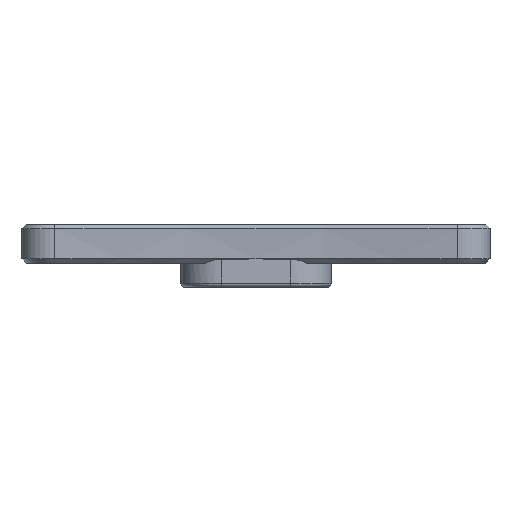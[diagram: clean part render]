
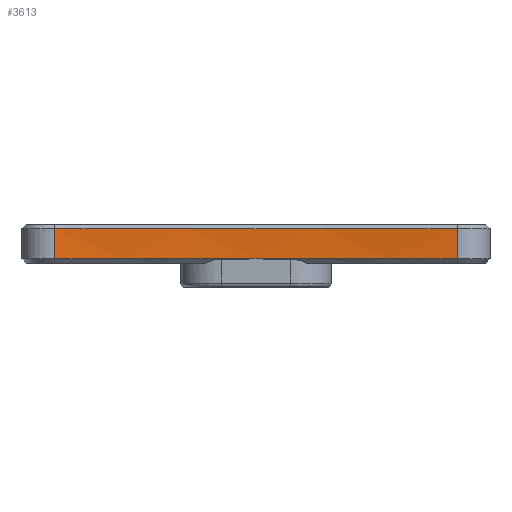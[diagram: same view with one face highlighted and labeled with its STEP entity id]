
A CAD part, left-side view. The second image highlights one B-rep face of the part: STEP entity #3613.
In plain terms, the highlighted cylindrical face has radius 197.333 mm (diameter 394.667 mm), a partial arc.
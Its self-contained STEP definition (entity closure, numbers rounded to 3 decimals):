
#283=FACE_OUTER_BOUND('',#515,.T.);
#515=EDGE_LOOP('',(#2650,#2651,#2652,#2653,#2654));
#758=LINE('',#5744,#1079);
#759=LINE('',#5745,#1080);
#1079=VECTOR('',#4572,10.);
#1080=VECTOR('',#4573,10.);
#1380=CIRCLE('',#3881,197.333);
#1381=CIRCLE('',#3883,197.333);
#1399=CIRCLE('',#3908,197.333);
#1591=VERTEX_POINT('',#5620);
#1594=VERTEX_POINT('',#5633);
#1597=VERTEX_POINT('',#5648);
#1614=VERTEX_POINT('',#5696);
#1616=VERTEX_POINT('',#5702);
#1956=EDGE_CURVE('',#1594,#1591,#1380,.T.);
#1959=EDGE_CURVE('',#1591,#1597,#1381,.T.);
#1986=EDGE_CURVE('',#1616,#1614,#1399,.T.);
#2007=EDGE_CURVE('',#1616,#1597,#758,.T.);
#2008=EDGE_CURVE('',#1614,#1594,#759,.T.);
#2650=ORIENTED_EDGE('',*,*,#1986,.F.);
#2651=ORIENTED_EDGE('',*,*,#2007,.T.);
#2652=ORIENTED_EDGE('',*,*,#1959,.F.);
#2653=ORIENTED_EDGE('',*,*,#1956,.F.);
#2654=ORIENTED_EDGE('',*,*,#2008,.F.);
#3511=CYLINDRICAL_SURFACE('',#3931,197.333);
#3613=ADVANCED_FACE('',(#283),#3511,.F.);
#3881=AXIS2_PLACEMENT_3D('',#5635,#4453,#4454);
#3883=AXIS2_PLACEMENT_3D('',#5649,#4457,#4458);
#3908=AXIS2_PLACEMENT_3D('',#5704,#4515,#4516);
#3931=AXIS2_PLACEMENT_3D('',#5743,#4570,#4571);
#4453=DIRECTION('center_axis',(0.,0.,1.));
#4454=DIRECTION('ref_axis',(0.993,-0.122,0.));
#4457=DIRECTION('center_axis',(0.,0.,1.));
#4458=DIRECTION('ref_axis',(0.993,-0.122,0.));
#4515=DIRECTION('center_axis',(0.,0.,-1.));
#4516=DIRECTION('ref_axis',(0.993,-0.122,0.));
#4570=DIRECTION('center_axis',(0.,0.,-1.));
#4571=DIRECTION('ref_axis',(0.993,-0.122,0.));
#4572=DIRECTION('',(0.,0.,-1.));
#4573=DIRECTION('',(0.,0.,-1.));
#5620=CARTESIAN_POINT('',(0.,8.991,3.4));
#5633=CARTESIAN_POINT('',(-1.474,-15.082,3.4));
#5635=CARTESIAN_POINT('Origin',(-197.333,8.991,3.4));
#5648=CARTESIAN_POINT('',(-1.474,33.064,3.4));
#5649=CARTESIAN_POINT('Origin',(-197.333,8.991,3.4));
#5696=CARTESIAN_POINT('',(-1.474,-15.082,7.));
#5702=CARTESIAN_POINT('',(-1.474,33.064,7.));
#5704=CARTESIAN_POINT('Origin',(-197.333,8.991,7.));
#5743=CARTESIAN_POINT('Origin',(-197.333,8.991,7.5));
#5744=CARTESIAN_POINT('',(-1.474,33.064,7.5));
#5745=CARTESIAN_POINT('',(-1.474,-15.082,7.5));
